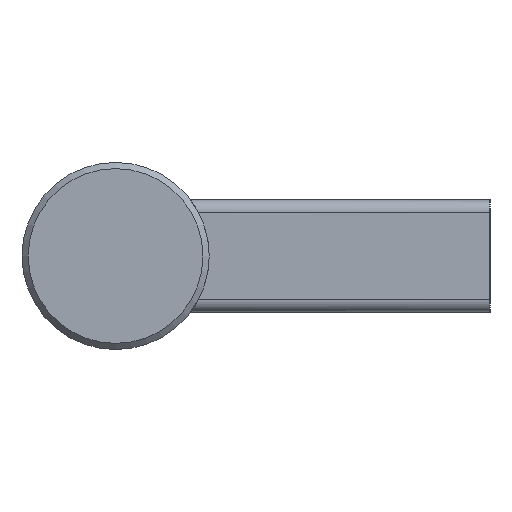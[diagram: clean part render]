
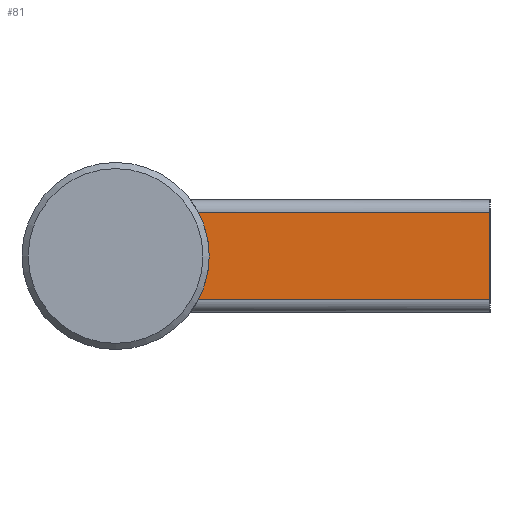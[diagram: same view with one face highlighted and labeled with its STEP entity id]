
A CAD part, left-side view. The second image highlights one B-rep face of the part: STEP entity #81.
In plain terms, the highlighted planar face has unit normal (-1, 0, 0).
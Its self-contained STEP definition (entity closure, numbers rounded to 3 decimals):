
#81 = ADVANCED_FACE( '', ( #121 ), #122, .F. );
#121 = FACE_OUTER_BOUND( '', #186, .T. );
#122 = PLANE( '', #187 );
#186 = EDGE_LOOP( '', ( #280, #281, #282, #283 ) );
#187 = AXIS2_PLACEMENT_3D( '', #284, #285, #286 );
#280 = ORIENTED_EDGE( '', *, *, #453, .F. );
#281 = ORIENTED_EDGE( '', *, *, #444, .T. );
#282 = ORIENTED_EDGE( '', *, *, #455, .T. );
#283 = ORIENTED_EDGE( '', *, *, #456, .T. );
#284 = CARTESIAN_POINT( '', ( -115., 60., -7. ) );
#285 = DIRECTION( '', ( 1., 0., 0. ) );
#286 = DIRECTION( '', ( 0., 0., -1. ) );
#444 = EDGE_CURVE( '', #517, #514, #518, .T. );
#453 = EDGE_CURVE( '', #517, #534, #535, .T. );
#455 = EDGE_CURVE( '', #514, #537, #538, .T. );
#456 = EDGE_CURVE( '', #537, #534, #539, .T. );
#514 = VERTEX_POINT( '', #668 );
#517 = VERTEX_POINT( '', #686 );
#518 = CIRCLE( '', #687, 15. );
#534 = VERTEX_POINT( '', #747 );
#535 = LINE( '', #748, #749 );
#537 = VERTEX_POINT( '', #751 );
#538 = LINE( '', #752, #753 );
#539 = LINE( '', #754, #755 );
#668 = CARTESIAN_POINT( '', ( -115., 46.734, -7. ) );
#686 = CARTESIAN_POINT( '', ( -115., 46.734, 7. ) );
#687 = AXIS2_PLACEMENT_3D( '', #844, #845, #846 );
#747 = CARTESIAN_POINT( '', ( -115., 0., 7. ) );
#748 = CARTESIAN_POINT( '', ( -115., 60., 7. ) );
#749 = VECTOR( '', #856, 1000. );
#751 = CARTESIAN_POINT( '', ( -115., 0., -7. ) );
#752 = CARTESIAN_POINT( '', ( -115., 60., -7. ) );
#753 = VECTOR( '', #860, 1000. );
#754 = CARTESIAN_POINT( '', ( -115., 0., -7. ) );
#755 = VECTOR( '', #861, 1000. );
#844 = CARTESIAN_POINT( '', ( -115., 60., 0. ) );
#845 = DIRECTION( '', ( 1., 0., 0. ) );
#846 = DIRECTION( '', ( 0., 0., -1. ) );
#856 = DIRECTION( '', ( 0., -1., 0. ) );
#860 = DIRECTION( '', ( 0., -1., 0. ) );
#861 = DIRECTION( '', ( 0., 0., 1. ) );
